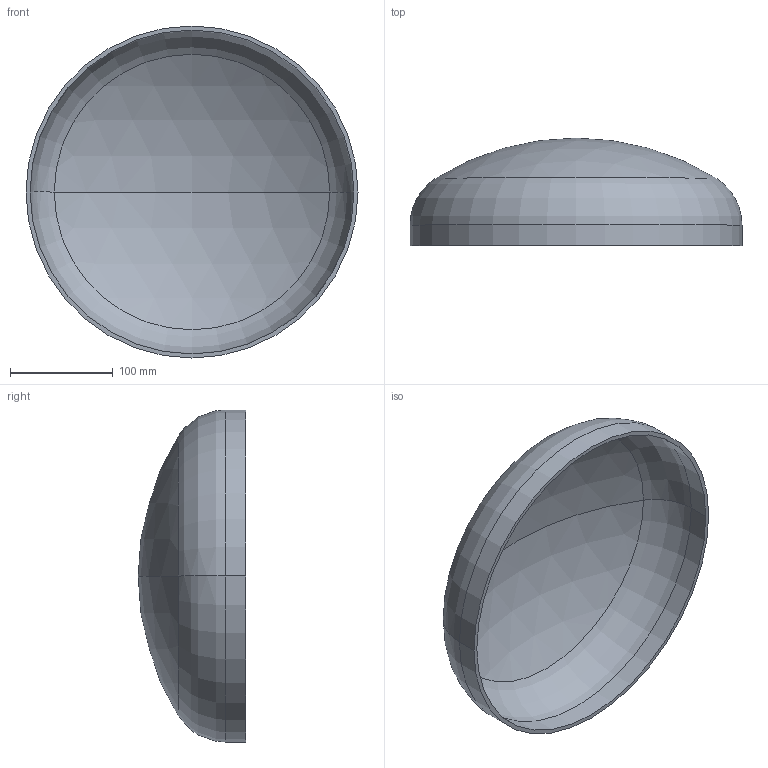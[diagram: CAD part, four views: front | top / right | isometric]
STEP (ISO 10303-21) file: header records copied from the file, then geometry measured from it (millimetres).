
FILE_DESCRIPTION (( 'STEP AP203' ), '1' );
FILE_NAME ('DIN 28013 Korbbogenform_-_Boden DIN 28013 - 323,9 x 20 - I - s=4.step', '2016-07-01T07:44:03', ( '' ), ( '' ), 'SwSTEP 2.0', 'SolidWorks 2013', '' );
FILE_SCHEMA (( 'CONFIG_CONTROL_DESIGN' ));
Length unit declared in the file: millimetre
Products named in the file (1): DIN 28013 Korbbogenform_-_Boden DIN 28013 - 323,9 x 20 - I - s=4
Bounding box: 323.9 x 104.9 x 323.9 mm (x, y, z)
Volume: 530542.6 mm3; surface area: 269324.7 mm2
Topology: 1 solids, 1 shells, 13 faces, 24 edges, 14 vertices
Faces by surface type: torus 4, cylinder 4, sphere 4, plane 1
Entity records: 407 total; most frequent: DIRECTION 72, CARTESIAN_POINT 52, ORIENTED_EDGE 48, AXIS2_PLACEMENT_3D 34, EDGE_CURVE 24, CIRCLE 20, EDGE_LOOP 14, VERTEX_POINT 14
